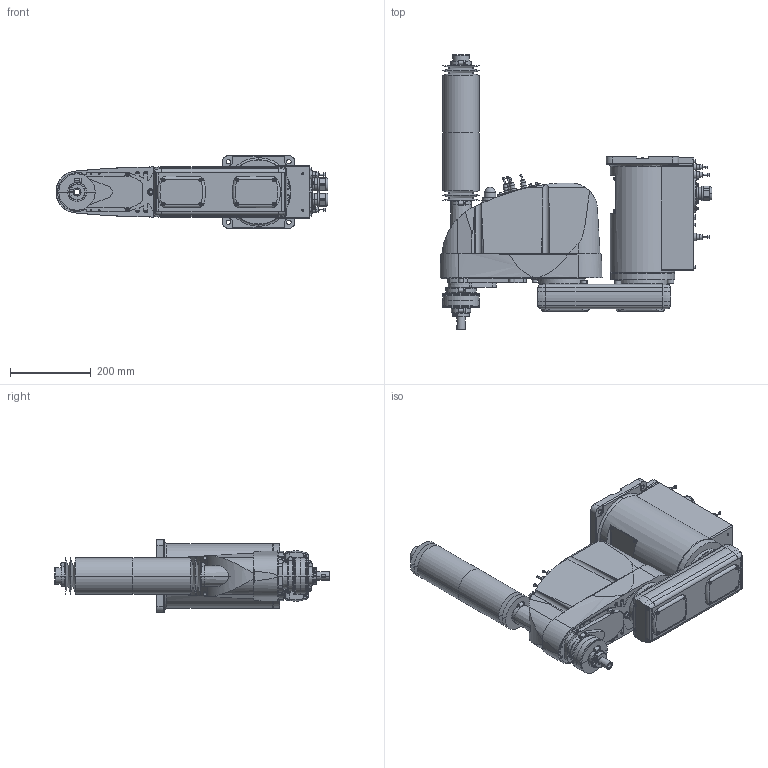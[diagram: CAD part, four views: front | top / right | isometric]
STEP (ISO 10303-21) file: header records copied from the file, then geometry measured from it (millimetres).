
FILE_DESCRIPTION( ( '' ), '1' );
FILE_NAME( '//expscmdclustefs.cadenas.external/client_exchange/iodir/jobs/output/wkb51531906_no0/STEP/G6_453DR_2_03.stp', '2012-11-23T08:18:56', ( '' ), ( '' ), ' ', ' ', ' ' );
FILE_SCHEMA( ( 'CONFIG_CONTROL_DESIGN' ) );
Length unit declared in the file: millimetre
Products named in the file (8): 1; 2; 3; 4; 5; 6; 7; 8
Bounding box: 674 x 679.5 x 180 mm (x, y, z)
Volume: 21781301.4 mm3; surface area: 1120201.7 mm2
Topology: 8 solids, 8 shells, 1830 faces, 4409 edges, 2805 vertices
Faces by surface type: plane 875, cylinder 630, cone 284, torus 40, sphere 1
Entity records: 56994 total; most frequent: CARTESIAN_POINT 13037, DIRECTION 9430, ORIENTED_EDGE 8758, EDGE_CURVE 4379, AXIS2_PLACEMENT_3D 3432, VERTEX_POINT 2805, LINE 2566, VECTOR 2566
